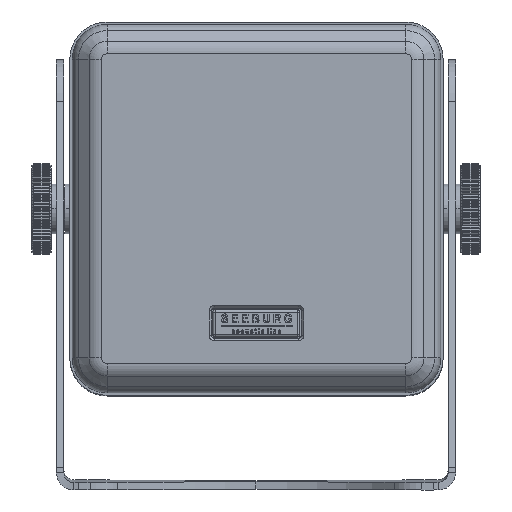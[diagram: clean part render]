
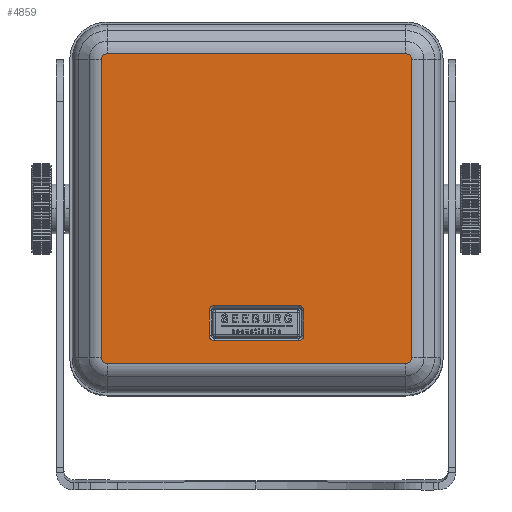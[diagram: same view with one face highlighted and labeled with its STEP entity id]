
A CAD part, top view. The second image highlights one B-rep face of the part: STEP entity #4859.
In plain terms, the highlighted planar face has unit normal (0, 0, 1).
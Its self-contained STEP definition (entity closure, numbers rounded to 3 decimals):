
#2935 = VERTEX_POINT ( 'NONE', #22177 ) ;
#2936 = VERTEX_POINT ( 'NONE', #22178 ) ;
#2937 = VERTEX_POINT ( 'NONE', #22179 ) ;
#2938 = VERTEX_POINT ( 'NONE', #22180 ) ;
#2939 = VERTEX_POINT ( 'NONE', #22181 ) ;
#2940 = VERTEX_POINT ( 'NONE', #22182 ) ;
#2941 = VERTEX_POINT ( 'NONE', #22183 ) ;
#2942 = VERTEX_POINT ( 'NONE', #22184 ) ;
#2943 = VERTEX_POINT ( 'NONE', #22185 ) ;
#2944 = VERTEX_POINT ( 'NONE', #22186 ) ;
#2945 = VERTEX_POINT ( 'NONE', #22187 ) ;
#2946 = VERTEX_POINT ( 'NONE', #22188 ) ;
#2947 = VERTEX_POINT ( 'NONE', #22189 ) ;
#2948 = VERTEX_POINT ( 'NONE', #22190 ) ;
#2949 = VERTEX_POINT ( 'NONE', #22191 ) ;
#2950 = VERTEX_POINT ( 'NONE', #22192 ) ;
#3053 = EDGE_LOOP ( 'NONE', ( #17735, #17736, #17737, #17738, #17739, #17740, #17741, #17742 ) ) ;
#3056 = EDGE_LOOP ( 'NONE', ( #17727, #17728, #17729, #17730, #17731, #17732, #17733, #17734 ) ) ;
#4859 = ADVANCED_FACE ( 'NONE', ( #33456, #33457 ), #33750, .F. ) ;
#13761 = EDGE_CURVE ( 'NONE', #2935, #2936, #41907, .T. ) ;
#13763 = EDGE_CURVE ( 'NONE', #2936, #2937, #41906, .T. ) ;
#13765 = EDGE_CURVE ( 'NONE', #2937, #2938, #41910, .T. ) ;
#13767 = EDGE_CURVE ( 'NONE', #2938, #2939, #41909, .T. ) ;
#13769 = EDGE_CURVE ( 'NONE', #2939, #2940, #41913, .T. ) ;
#13771 = EDGE_CURVE ( 'NONE', #2940, #2941, #41912, .T. ) ;
#13773 = EDGE_CURVE ( 'NONE', #2941, #2942, #41916, .T. ) ;
#13775 = EDGE_CURVE ( 'NONE', #2942, #2935, #41915, .T. ) ;
#13777 = EDGE_CURVE ( 'NONE', #2943, #2944, #41918, .T. ) ;
#13779 = EDGE_CURVE ( 'NONE', #2944, #2945, #41921, .T. ) ;
#13781 = EDGE_CURVE ( 'NONE', #2945, #2946, #41920, .T. ) ;
#13785 = EDGE_CURVE ( 'NONE', #2946, #2947, #41924, .T. ) ;
#13787 = EDGE_CURVE ( 'NONE', #2947, #2948, #41923, .T. ) ;
#13789 = EDGE_CURVE ( 'NONE', #2948, #2949, #41927, .T. ) ;
#13791 = EDGE_CURVE ( 'NONE', #2949, #2950, #41926, .T. ) ;
#13793 = EDGE_CURVE ( 'NONE', #2950, #2943, #41930, .T. ) ;
#17727 = ORIENTED_EDGE ( 'NONE', *, *, #13761, .T. ) ;
#17728 = ORIENTED_EDGE ( 'NONE', *, *, #13763, .T. ) ;
#17729 = ORIENTED_EDGE ( 'NONE', *, *, #13765, .T. ) ;
#17730 = ORIENTED_EDGE ( 'NONE', *, *, #13767, .T. ) ;
#17731 = ORIENTED_EDGE ( 'NONE', *, *, #13769, .T. ) ;
#17732 = ORIENTED_EDGE ( 'NONE', *, *, #13771, .T. ) ;
#17733 = ORIENTED_EDGE ( 'NONE', *, *, #13773, .T. ) ;
#17734 = ORIENTED_EDGE ( 'NONE', *, *, #13775, .T. ) ;
#17735 = ORIENTED_EDGE ( 'NONE', *, *, #13777, .T. ) ;
#17736 = ORIENTED_EDGE ( 'NONE', *, *, #13779, .T. ) ;
#17737 = ORIENTED_EDGE ( 'NONE', *, *, #13781, .T. ) ;
#17738 = ORIENTED_EDGE ( 'NONE', *, *, #13785, .T. ) ;
#17739 = ORIENTED_EDGE ( 'NONE', *, *, #13787, .T. ) ;
#17740 = ORIENTED_EDGE ( 'NONE', *, *, #13789, .T. ) ;
#17741 = ORIENTED_EDGE ( 'NONE', *, *, #13791, .T. ) ;
#17742 = ORIENTED_EDGE ( 'NONE', *, *, #13793, .T. ) ;
#22177 = CARTESIAN_POINT ( 'NONE',  ( 91., 35., 18. ) ) ;
#22178 = CARTESIAN_POINT ( 'NONE',  ( 93., 33., 18. ) ) ;
#22179 = CARTESIAN_POINT ( 'NONE',  ( 93., 23., 18. ) ) ;
#22180 = CARTESIAN_POINT ( 'NONE',  ( 91., 21., 18. ) ) ;
#22181 = CARTESIAN_POINT ( 'NONE',  ( 57., 21., 18. ) ) ;
#22182 = CARTESIAN_POINT ( 'NONE',  ( 55., 23., 18. ) ) ;
#22183 = CARTESIAN_POINT ( 'NONE',  ( 55., 33., 18. ) ) ;
#22184 = CARTESIAN_POINT ( 'NONE',  ( 57., 35., 18. ) ) ;
#22185 = CARTESIAN_POINT ( 'NONE',  ( 136.236, 14., 18. ) ) ;
#22186 = CARTESIAN_POINT ( 'NONE',  ( 136.236, 134., 18. ) ) ;
#22187 = CARTESIAN_POINT ( 'NONE',  ( 134., 136.236, 18. ) ) ;
#22188 = CARTESIAN_POINT ( 'NONE',  ( 14., 136.236, 18. ) ) ;
#22189 = CARTESIAN_POINT ( 'NONE',  ( 11.764, 134., 18. ) ) ;
#22190 = CARTESIAN_POINT ( 'NONE',  ( 11.764, 14., 18. ) ) ;
#22191 = CARTESIAN_POINT ( 'NONE',  ( 14., 11.764, 18. ) ) ;
#22192 = CARTESIAN_POINT ( 'NONE',  ( 134., 11.764, 18. ) ) ;
#26009 = AXIS2_PLACEMENT_3D ( 'NONE', #33751, #33752, #33753 ) ;
#33456 = FACE_BOUND ( 'NONE', #3056, .T. ) ;
#33457 = FACE_OUTER_BOUND ( 'NONE', #3053, .T. ) ;
#33750 = PLANE ( 'NONE',  #26009 ) ;
#33751 = CARTESIAN_POINT ( 'NONE',  ( 14., 134., 18. ) ) ;
#33752 = DIRECTION ( 'NONE',  ( 0., 0., -1. ) ) ;
#33753 = DIRECTION ( 'NONE',  ( -1., 0., 0. ) ) ;
#37472 = AXIS2_PLACEMENT_3D ( 'NONE', #42716, #42717, #42718 ) ;
#37473 = AXIS2_PLACEMENT_3D ( 'NONE', #42721, #42722, #42723 ) ;
#37474 = AXIS2_PLACEMENT_3D ( 'NONE', #42726, #42727, #42728 ) ;
#37475 = AXIS2_PLACEMENT_3D ( 'NONE', #42731, #42732, #42733 ) ;
#37476 = AXIS2_PLACEMENT_3D ( 'NONE', #42738, #42739, #42740 ) ;
#37477 = AXIS2_PLACEMENT_3D ( 'NONE', #42762, #42763, #42764 ) ;
#37478 = AXIS2_PLACEMENT_3D ( 'NONE', #42767, #42768, #42769 ) ;
#37479 = AXIS2_PLACEMENT_3D ( 'NONE', #42772, #42773, #42774 ) ;
#41906 = LINE ( 'NONE', #42719, #41908 ) ;
#41907 = CIRCLE ( 'NONE', #37472, 2. ) ;
#41908 = VECTOR ( 'NONE', #42720, 1000. ) ;
#41909 = LINE ( 'NONE', #42724, #41911 ) ;
#41910 = CIRCLE ( 'NONE', #37473, 2. ) ;
#41911 = VECTOR ( 'NONE', #42725, 1000. ) ;
#41912 = LINE ( 'NONE', #42729, #41914 ) ;
#41913 = CIRCLE ( 'NONE', #37474, 2. ) ;
#41914 = VECTOR ( 'NONE', #42730, 1000. ) ;
#41915 = LINE ( 'NONE', #42734, #41917 ) ;
#41916 = CIRCLE ( 'NONE', #37475, 2. ) ;
#41917 = VECTOR ( 'NONE', #42735, 1000. ) ;
#41918 = LINE ( 'NONE', #42736, #41919 ) ;
#41919 = VECTOR ( 'NONE', #42737, 1000. ) ;
#41920 = LINE ( 'NONE', #42741, #41922 ) ;
#41921 = CIRCLE ( 'NONE', #37476, 2.236 ) ;
#41922 = VECTOR ( 'NONE', #42742, 1000. ) ;
#41923 = LINE ( 'NONE', #42765, #41925 ) ;
#41924 = CIRCLE ( 'NONE', #37477, 2.236 ) ;
#41925 = VECTOR ( 'NONE', #42766, 1000. ) ;
#41926 = LINE ( 'NONE', #42770, #41928 ) ;
#41927 = CIRCLE ( 'NONE', #37478, 2.236 ) ;
#41928 = VECTOR ( 'NONE', #42771, 1000. ) ;
#41930 = CIRCLE ( 'NONE', #37479, 2.236 ) ;
#42716 = CARTESIAN_POINT ( 'NONE',  ( 91., 33., 18. ) ) ;
#42717 = DIRECTION ( 'NONE',  ( 0., 0., -1. ) ) ;
#42718 = DIRECTION ( 'NONE',  ( -1., 0., 0. ) ) ;
#42719 = CARTESIAN_POINT ( 'NONE',  ( 93., 134., 18. ) ) ;
#42720 = DIRECTION ( 'NONE',  ( 0., -1., 0. ) ) ;
#42721 = CARTESIAN_POINT ( 'NONE',  ( 91., 23., 18. ) ) ;
#42722 = DIRECTION ( 'NONE',  ( 0., 0., -1. ) ) ;
#42723 = DIRECTION ( 'NONE',  ( -1., 0., 0. ) ) ;
#42724 = CARTESIAN_POINT ( 'NONE',  ( 14., 21., 18. ) ) ;
#42725 = DIRECTION ( 'NONE',  ( -1., 0., 0. ) ) ;
#42726 = CARTESIAN_POINT ( 'NONE',  ( 57., 23., 18. ) ) ;
#42727 = DIRECTION ( 'NONE',  ( 0., 0., -1. ) ) ;
#42728 = DIRECTION ( 'NONE',  ( -1., 0., 0. ) ) ;
#42729 = CARTESIAN_POINT ( 'NONE',  ( 55., 134., 18. ) ) ;
#42730 = DIRECTION ( 'NONE',  ( 0., 1., 0. ) ) ;
#42731 = CARTESIAN_POINT ( 'NONE',  ( 57., 33., 18. ) ) ;
#42732 = DIRECTION ( 'NONE',  ( 0., 0., -1. ) ) ;
#42733 = DIRECTION ( 'NONE',  ( -1., 0., 0. ) ) ;
#42734 = CARTESIAN_POINT ( 'NONE',  ( 14., 35., 18. ) ) ;
#42735 = DIRECTION ( 'NONE',  ( 1., 0., 0. ) ) ;
#42736 = CARTESIAN_POINT ( 'NONE',  ( 136.236, 134., 18. ) ) ;
#42737 = DIRECTION ( 'NONE',  ( 0., 1., 0. ) ) ;
#42738 = CARTESIAN_POINT ( 'NONE',  ( 134., 134., 18. ) ) ;
#42739 = DIRECTION ( 'NONE',  ( 0., 0., 1. ) ) ;
#42740 = DIRECTION ( 'NONE',  ( -1., 0., 0. ) ) ;
#42741 = CARTESIAN_POINT ( 'NONE',  ( 14., 136.236, 18. ) ) ;
#42742 = DIRECTION ( 'NONE',  ( -1., 0., 0. ) ) ;
#42762 = CARTESIAN_POINT ( 'NONE',  ( 14., 134., 18. ) ) ;
#42763 = DIRECTION ( 'NONE',  ( 0., 0., 1. ) ) ;
#42764 = DIRECTION ( 'NONE',  ( -1., 0., 0. ) ) ;
#42765 = CARTESIAN_POINT ( 'NONE',  ( 11.764, 14., 18. ) ) ;
#42766 = DIRECTION ( 'NONE',  ( 0., -1., 0. ) ) ;
#42767 = CARTESIAN_POINT ( 'NONE',  ( 14., 14., 18. ) ) ;
#42768 = DIRECTION ( 'NONE',  ( 0., 0., 1. ) ) ;
#42769 = DIRECTION ( 'NONE',  ( -1., 0., 0. ) ) ;
#42770 = CARTESIAN_POINT ( 'NONE',  ( 134., 11.764, 18. ) ) ;
#42771 = DIRECTION ( 'NONE',  ( 1., 0., 0. ) ) ;
#42772 = CARTESIAN_POINT ( 'NONE',  ( 134., 14., 18. ) ) ;
#42773 = DIRECTION ( 'NONE',  ( 0., 0., 1. ) ) ;
#42774 = DIRECTION ( 'NONE',  ( -1., 0., 0. ) ) ;
